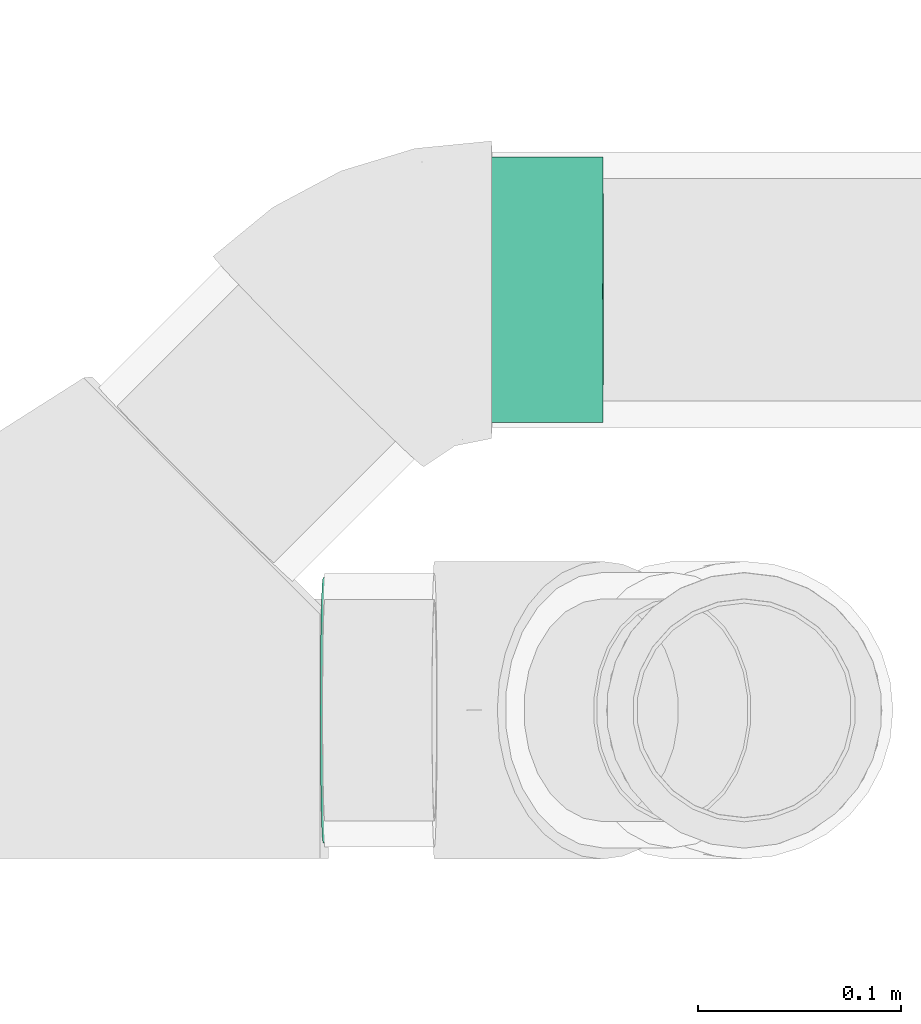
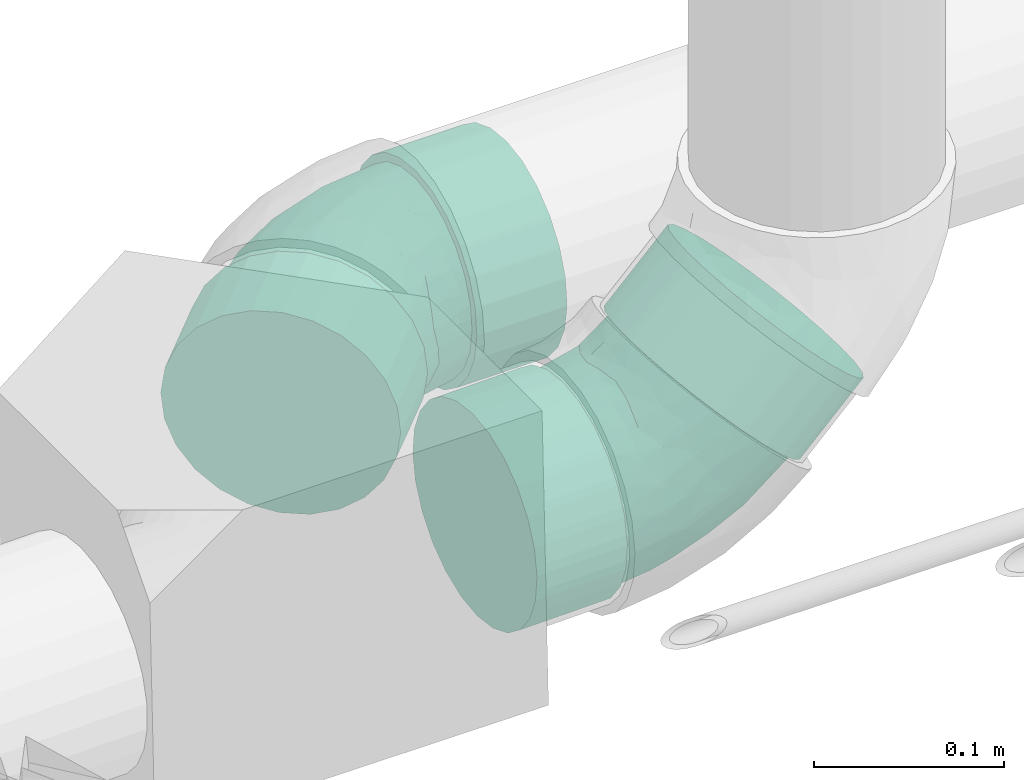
# One storey, part 129 of 156: 2 flow fittings.
"""IFC2X3 building model written with IfcOpenShell, lengths in millimetres."""

from ifc_helpers import new_model, entity, si_unit, converted_unit, derived_unit, direction, frame, origin_with_axes, place, context, subcontext, project, spatial, open_shell, surface_model, source, transform, mapped, type_object, element, save


model = new_model("IFC2X3")

# Units and contexts
model_context = context("Model", 3, precision=0.01, world=frame((0.0, 4.29681676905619e-09, 0.0)), true_north=direction((4.01073788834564e-13, 1.0)))
plan_context = context("Plan", 3, precision=0.01, world=frame((0.0, 4.29681676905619e-09, 0.0)), true_north=direction((4.01073788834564e-13, 1.0)))
body_context = subcontext(model_context, "Body", "Model", "MODEL_VIEW")
ifc_project = project(units=[converted_unit("PLANEANGLEUNIT", "DEGREE", entity("IfcPositiveLengthMeasure", 0.0174532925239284), si_unit("PLANEANGLEUNIT", "RADIAN"), dimensions=[0, 0, 0, 0, 0, 0, 0]), si_unit("AREAUNIT", "SQUARE_METRE"), si_unit("LENGTHUNIT", "METRE", prefix="MILLI"), si_unit("MASSUNIT", "GRAM", prefix="KILO"), si_unit("POWERUNIT", "WATT"), si_unit("PRESSUREUNIT", "PASCAL", prefix="KILO"), si_unit("FORCEUNIT", "NEWTON", prefix="KILO"), si_unit("ELECTRICVOLTAGEUNIT", "VOLT"), si_unit("ELECTRICCURRENTUNIT", "AMPERE"), si_unit("THERMODYNAMICTEMPERATUREUNIT", "DEGREE_CELSIUS"), si_unit("TIMEUNIT", "SECOND"), si_unit("VOLUMEUNIT", "CUBIC_METRE"), derived_unit("LINEARVELOCITYUNIT", [(si_unit("LENGTHUNIT", "METRE"), 1), (si_unit("TIMEUNIT", "SECOND"), -1)]), derived_unit("VOLUMETRICFLOWRATEUNIT", [(si_unit("VOLUMEUNIT", "CUBIC_METRE"), 1), (si_unit("TIMEUNIT", "SECOND"), -1)]), derived_unit("THERMALTRANSMITTANCEUNIT", [(si_unit("POWERUNIT", "WATT"), 1), (si_unit("THERMODYNAMICTEMPERATUREUNIT", "KELVIN"), -1), (si_unit("AREAUNIT", "SQUARE_METRE"), -1)]), derived_unit("SOUNDPRESSUREUNIT", [(si_unit("PRESSUREUNIT", "PASCAL"), 1)])], contexts=[model_context, plan_context])

# Site, building, storey
site_placement = place(None, frame((0.0, -4.29681676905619e-09, 0.0), z_axis=(0.0, 0.0, 1.0), x_axis=(1.0, 0.0, 0.0)))
site = spatial("IfcSite", under=ifc_project, at=site_placement, CompositionType="ELEMENT")
building_placement = place(site_placement, frame((0.0, 4.29681676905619e-09, 0.0), z_axis=(0.0, 0.0, 1.0), x_axis=(1.0, 0.0, 0.0)))
building = spatial("IfcBuilding", under=site, at=building_placement, Name="mc-building", CompositionType="ELEMENT")
storey_placement = place(building_placement, frame((0.0, 0.0, 205200.0), z_axis=(0.0, 0.0, 1.0), x_axis=(1.0, 0.0, 0.0)))
storey = spatial("IfcBuildingStorey", under=building, at=storey_placement, Name="Nivå D + 1,2 m", CompositionType="ELEMENT", Elevation=205200.0)

# Flow fittings
pipe_fitting_type = type_object("IfcPipeFittingType", Name="magi_sewer_bend_001", PredefinedType="BEND")
shared_shape_1 = source(origin_with_axes(), body_context, "Body", "SurfaceModel", [
    surface_model("IfcShellBasedSurfaceModel", [(-105.13049, -16.95265, -63.26814), (-105.13049, -32.75, -56.72466), (-105.13049, -46.3155, -46.3155), (-105.13049, -63.26814, -16.95265), (-105.13049, 56.72466, -32.75), (-105.13049, -56.72466, -32.75), (-105.13049, -65.5, 0.0), (-105.13049, 16.95265, -63.26814), (-105.13049, 0.0, -65.5), (-105.13049, 32.75, -56.72466), (-105.13049, 46.3155, -46.3155), (-105.13049, 63.26814, -16.95265), (-105.13049, -63.26814, 16.95265), (-105.13049, -56.72466, 32.75), (-105.13049, -46.3155, 46.3155), (-105.13049, 63.26814, 16.95265), (-105.13049, -16.95265, 63.26814), (-105.13049, 0.0, 65.5), (-105.13049, -32.75, 56.72466), (-105.13049, 46.3155, 46.3155), (-105.13049, 56.72466, 32.75), (-105.13049, 65.5, 0.0), (-105.13049, 16.95265, 63.26814), (-105.13049, 32.75, 56.72466), (-50.13049, -16.95265, 63.26814), (-50.13049, 16.95265, 63.26814), (-50.13049, 0.0, 65.5), (-50.13049, -46.3155, 46.3155), (-50.13049, -32.75, 56.72466), (-50.13049, -56.72466, 32.75), (-50.13049, -63.26814, 16.95265), (-50.13049, 46.3155, 46.3155), (-50.13049, 32.75, 56.72466), (-50.13049, 63.26814, 16.95265), (-50.13049, 56.72466, 32.75), (-50.13049, 63.26814, -16.95265), (-50.13049, 65.5, 0.0), (-50.13049, -63.26814, -16.95265), (-50.13049, 32.75, -56.72466), (-50.13049, -65.5, 0.0), (-50.13049, -16.95265, -63.26814), (-50.13049, -56.72466, -32.75), (-50.13049, -46.3155, -46.3155), (-50.13049, -32.75, -56.72466), (-50.13049, 0.0, -65.5), (-50.13049, 46.3155, -46.3155), (-50.13049, 56.72466, -32.75), (-50.13049, 16.95265, -63.26814), (29.58326, 119.08026, 16.95265), (34.21089, 114.45401, 32.75), (41.57239, 107.09473, 46.3155), (62.33818, 86.33518, 63.26814), (86.31644, 62.36412, 63.26814), (51.16609, 97.50391, 56.72466), (74.32731, 74.34965, -65.5), (29.58326, 119.08026, -16.95265), (41.57239, 107.09473, -46.3155), (34.21089, 114.45401, -32.75), (28.00486, 120.65819, 0.0), (62.33818, 86.33518, -63.26814), (51.16609, 97.50391, -56.72466), (74.32731, 74.34965, 65.5), (97.48854, 51.19538, 56.72466), (107.08224, 41.60457, 46.3155), (119.07137, 29.61904, 16.95265), (120.64977, 28.04111, 0.0), (114.44373, 34.24528, 32.75), (86.31644, 62.36412, -63.26814), (107.08224, 41.60457, -46.3155), (97.48854, 51.19538, -56.72466), (114.44373, 34.24528, -32.75), (119.07137, 29.61904, -16.95265), (81.76473, -10.8556, 0.0), (80.18634, -9.27768, 16.95265), (75.5587, -4.65144, 32.75), (68.1972, 2.70785, 46.3155), (58.60351, 12.29867, 56.72466), (47.43142, 23.4674, 63.26814), (35.44228, 35.45293, -65.5), (75.5587, -4.65144, -32.75), (58.60351, 12.29867, -56.72466), (68.1972, 2.70785, -46.3155), (80.18634, -9.27768, -16.95265), (47.43142, 23.4674, -63.26814), (-9.30177, 80.18354, 16.95265), (23.45315, 47.43847, 63.26814), (12.28106, 58.6072, 56.72466), (2.68736, 68.19801, 46.3155), (-4.67414, 75.5573, 32.75), (-4.67414, 75.5573, -32.75), (23.45315, 47.43847, -63.26814), (2.68736, 68.19801, -46.3155), (12.28106, 58.6072, -56.72466), (-9.30177, 80.18354, -16.95265), (-10.88017, 81.76147, 0.0), (35.44228, 35.45293, 65.5), (-50.13049, 15.65855, -58.43851), (-50.13049, 0.0, -60.5), (-50.13049, 58.43851, -15.65855), (-50.13049, 30.25, -52.39454), (-50.13049, 52.39454, -30.25), (-50.13049, 42.77996, -42.77996), (-50.13049, -60.5, 0.0), (-50.13049, -30.25, -52.39454), (-50.13049, -42.77996, -42.77996), (-50.13049, -15.65855, -58.43851), (-50.13049, -58.43851, -15.65855), (-50.13049, -52.39454, -30.25), (-50.13049, -58.43851, 15.65855), (-50.13049, 58.43851, 15.65855), (-50.13049, 52.39454, 30.25), (-50.13049, 42.77996, 42.77996), (-50.13049, 30.25, 52.39454), (-50.13049, 15.65855, 58.43851), (-50.13049, -52.39454, 30.25), (-50.13049, -42.77996, 42.77996), (-50.13049, -30.25, 52.39454), (-50.13049, -15.65855, 58.43851), (-50.13049, 0.0, 60.5), (-50.13049, 60.5, 0.0), (35.44228, 35.45293, -60.5), (24.36835, 46.52354, -58.43851), (14.04909, 56.8397, -52.39454), (-5.88619, 76.769, -15.65855), (5.18774, 65.69839, -42.77996), (-1.61181, 72.4959, -30.25), (46.51622, 24.38233, -58.43851), (65.69683, 5.20748, -42.77996), (56.83548, 14.06617, -52.39454), (72.49638, -1.59003, -30.25), (78.22867, -7.3206, 0.0), (76.77076, -5.86313, -15.65855), (14.04909, 56.8397, 52.39454), (-7.3441, 78.22647, 0.0), (-5.88619, 76.769, 15.65855), (-1.61181, 72.4959, 30.25), (5.18774, 65.69839, 42.77996), (35.44228, 35.45293, 60.5), (24.36835, 46.52354, 58.43851), (76.77076, -5.86313, 15.65855), (65.69683, 5.20748, 42.77996), (72.49638, -1.59003, 30.25), (56.83548, 14.06617, 52.39454), (46.51622, 24.38233, 58.43851), (15.41053, -37.1964, 33.7136), (-13.39109, -34.19271, 46.68376), (-19.54597, -46.27111, 35.42477), (-20.22499, -56.5621, 0.0), (-3.14605, -54.31319, 0.0), (-12.91977, -55.7368, 10.33019), (46.54254, -18.89053, 35.42477), (-23.97695, -22.18433, 55.29363), (6.212, -14.99391, 54.53105), (1.79206, 36.37472, 56.46842), (10.93913, 28.64366, 59.62044), (-18.06415, -5.82488, 59.69839), (-5.75656, 13.89461, 60.28749), (-30.31899, 8.38388, 60.13291), (-17.18954, 41.4904, 49.39305), (-26.69049, 50.7381, 38.17985), (32.64076, 1.27247, 55.29363), (-23.25493, 25.17575, 56.55913), (23.35453, -39.58947, 23.84174), (-10.8534, -52.34077, 21.00941), (18.78576, -45.34319, 13.14739), (-24.92925, 60.17175, 24.85666), (48.55207, -30.26891, 10.33019), (54.30053, -25.68607, 0.0), (-24.23608, 64.83083, 12.71211), (44.68943, -29.32929, 21.00941), (16.89079, 8.65701, 59.69839), (33.64903, -14.70391, 46.68376), (-26.97394, 65.10703, 0.0), (10.15633, -24.51435, 48.24293), (18.7446, -45.24385, 0.0), (40.63525, -36.17452, 0.0), (-18.06415, -5.82488, -59.69839), (-12.91978, -55.7368, -10.33019), (18.78576, -45.34319, -13.14739), (16.8908, 8.65701, -59.69839), (-26.99166, 24.44958, -56.46842), (-27.99114, 12.51479, -59.62044), (-17.01245, 54.74773, -38.17984), (33.64903, -14.70391, -46.68376), (-24.92925, 60.17175, -24.85666), (44.68943, -29.32929, -21.00941), (-28.71428, 62.9755, -12.71211), (-1.36337, 34.24546, -56.55913), (-10.8534, -52.34077, -21.00941), (-17.18954, 41.4904, -49.39305), (-19.54597, -46.27111, -35.42477), (-13.39109, -34.19271, -46.68376), (10.15633, -24.51435, -48.24292), (15.41053, -37.1964, -33.7136), (-23.97695, -22.18433, -55.29363), (32.64076, 1.27247, -55.29363), (6.212, -14.99391, -54.53105), (48.55207, -30.26891, -10.33019), (15.50636, 27.36939, -60.13291), (11.48652, -44.5064, -23.84174), (46.54254, -18.89053, -35.42477), (-5.75656, 13.89461, -60.28749)], [open_shell([[[0, 1, 2]], [[0, 2, 3]], [[0, 3, 4]], [[3, 2, 5]], [[4, 3, 6]], [[0, 7, 8]], [[0, 9, 7]], [[10, 9, 0]], [[0, 4, 10]], [[6, 11, 4]], [[6, 12, 11]], [[12, 13, 14]], [[11, 14, 15]], [[16, 17, 14]], [[16, 14, 18]], [[15, 14, 17]], [[15, 19, 20]], [[21, 11, 15]], [[19, 22, 23]], [[22, 19, 15]], [[17, 22, 15]], [[11, 12, 14]], [[24, 25, 26]], [[27, 24, 28]], [[27, 29, 30]], [[24, 27, 25]], [[30, 25, 27]], [[25, 31, 32]], [[31, 25, 33]], [[31, 33, 34]], [[25, 30, 33]], [[33, 35, 36]], [[33, 30, 35]], [[37, 38, 39]], [[40, 37, 41]], [[42, 43, 40]], [[42, 40, 41]], [[44, 37, 40]], [[39, 45, 46]], [[46, 35, 39]], [[38, 44, 47]], [[38, 45, 39]], [[38, 37, 44]], [[39, 35, 30]], [[35, 11, 36]], [[46, 4, 35]], [[47, 44, 7]], [[45, 10, 46]], [[35, 4, 11]], [[11, 21, 36]], [[9, 38, 7]], [[9, 10, 45]], [[38, 47, 7]], [[10, 4, 46]], [[45, 38, 9]], [[44, 8, 7]], [[0, 40, 43]], [[42, 1, 43]], [[5, 41, 37]], [[42, 41, 2]], [[3, 37, 39]], [[40, 0, 8]], [[43, 1, 0]], [[42, 2, 1]], [[41, 5, 2]], [[3, 5, 37]], [[39, 6, 3]], [[40, 8, 44]], [[30, 12, 39]], [[29, 13, 30]], [[28, 18, 27]], [[27, 14, 29]], [[30, 13, 12]], [[12, 6, 39]], [[17, 16, 24]], [[16, 18, 28]], [[14, 27, 18]], [[14, 13, 29]], [[24, 16, 28]], [[24, 26, 17]], [[22, 25, 32]], [[31, 23, 32]], [[20, 34, 33]], [[31, 34, 19]], [[15, 33, 36]], [[25, 22, 17]], [[32, 23, 22]], [[31, 19, 23]], [[34, 20, 19]], [[15, 20, 33]], [[36, 21, 15]], [[25, 17, 26]], [[48, 49, 50]], [[48, 50, 51]], [[48, 51, 52]], [[51, 50, 53]], [[54, 55, 48]], [[55, 56, 57]], [[55, 58, 48]], [[56, 59, 60]], [[54, 59, 56]], [[56, 55, 54]], [[52, 51, 61]], [[52, 62, 63]], [[48, 63, 54]], [[64, 65, 63]], [[64, 63, 66]], [[54, 63, 65]], [[67, 68, 69]], [[67, 54, 65]], [[65, 68, 67]], [[65, 70, 68]], [[71, 70, 65]], [[63, 48, 52]], [[72, 73, 74]], [[72, 74, 75]], [[75, 76, 77]], [[75, 77, 72]], [[72, 77, 78]], [[79, 80, 81]], [[79, 82, 72]], [[79, 83, 80]], [[79, 72, 83]], [[78, 83, 72]], [[77, 84, 78]], [[85, 84, 77]], [[84, 85, 86]], [[87, 88, 84]], [[87, 84, 86]], [[78, 84, 89]], [[90, 91, 92]], [[91, 90, 89]], [[84, 93, 89]], [[90, 78, 89]], [[94, 93, 84]], [[85, 77, 95]], [[90, 59, 78]], [[92, 60, 90]], [[93, 94, 55]], [[91, 56, 92]], [[90, 60, 59]], [[59, 54, 78]], [[57, 89, 55]], [[57, 56, 91]], [[89, 93, 55]], [[56, 60, 92]], [[91, 89, 57]], [[94, 58, 55]], [[48, 84, 88]], [[87, 49, 88]], [[53, 86, 85]], [[87, 86, 50]], [[51, 85, 95]], [[84, 48, 58]], [[88, 49, 48]], [[87, 50, 49]], [[86, 53, 50]], [[51, 53, 85]], [[95, 61, 51]], [[84, 58, 94]], [[77, 52, 95]], [[76, 62, 77]], [[74, 66, 75]], [[75, 63, 76]], [[77, 62, 52]], [[52, 61, 95]], [[65, 64, 73]], [[64, 66, 74]], [[63, 75, 66]], [[63, 62, 76]], [[73, 64, 74]], [[73, 72, 65]], [[71, 82, 79]], [[81, 70, 79]], [[69, 80, 83]], [[81, 80, 68]], [[67, 83, 78]], [[82, 71, 65]], [[79, 70, 71]], [[81, 68, 70]], [[80, 69, 68]], [[67, 69, 83]], [[78, 54, 67]], [[82, 65, 72]], [[96, 97, 98]], [[99, 96, 98]], [[98, 100, 101]], [[99, 98, 101]], [[102, 98, 97]], [[103, 104, 105]], [[104, 97, 105]], [[106, 102, 107]], [[104, 107, 102]], [[104, 102, 97]], [[102, 108, 98]], [[109, 98, 108]], [[110, 109, 111]], [[112, 109, 108]], [[111, 109, 112]], [[113, 112, 108]], [[114, 115, 108]], [[116, 108, 115]], [[117, 118, 116]], [[108, 116, 118]], [[118, 113, 108]], [[119, 98, 109]], [[120, 121, 122]], [[120, 122, 123]], [[124, 125, 123]], [[124, 123, 122]], [[120, 123, 126]], [[126, 127, 128]], [[127, 126, 129]], [[129, 130, 131]], [[130, 129, 126]], [[126, 123, 130]], [[123, 132, 130]], [[133, 134, 135]], [[133, 135, 136]], [[137, 130, 132]], [[132, 133, 136]], [[137, 132, 138]], [[139, 140, 141]], [[140, 139, 142]], [[139, 143, 142]], [[139, 130, 143]], [[137, 143, 130]], [[132, 123, 133]], [[144, 145, 146]], [[147, 148, 149]], [[116, 115, 145]], [[141, 140, 150]], [[151, 145, 152]], [[146, 145, 115]], [[138, 153, 154]], [[117, 116, 151]], [[155, 156, 157]], [[118, 117, 155]], [[111, 158, 159]], [[142, 143, 160]], [[157, 113, 118]], [[112, 161, 158]], [[108, 147, 149]], [[132, 136, 158]], [[162, 163, 164]], [[158, 111, 112]], [[115, 114, 146]], [[110, 159, 165]], [[109, 110, 165]], [[139, 166, 167]], [[168, 119, 109]], [[169, 162, 164]], [[163, 149, 164]], [[112, 113, 161]], [[137, 154, 170]], [[140, 142, 171]], [[135, 134, 165]], [[170, 143, 137]], [[144, 146, 163]], [[140, 171, 150]], [[156, 154, 153]], [[171, 142, 160]], [[114, 163, 146]], [[166, 139, 169]], [[144, 150, 171]], [[157, 161, 113]], [[144, 162, 150]], [[109, 165, 168]], [[114, 108, 163]], [[172, 168, 133]], [[145, 173, 152]], [[134, 168, 165]], [[152, 170, 155]], [[135, 165, 159]], [[152, 160, 170]], [[135, 159, 136]], [[156, 155, 170]], [[138, 132, 153]], [[153, 158, 161]], [[151, 155, 117]], [[110, 111, 159]], [[169, 139, 141]], [[169, 141, 150]], [[173, 144, 171]], [[136, 159, 158]], [[158, 153, 132]], [[156, 153, 161]], [[145, 151, 116]], [[155, 151, 152]], [[170, 160, 143]], [[171, 160, 152]], [[108, 102, 147]], [[164, 148, 174]], [[108, 149, 163]], [[148, 164, 149]], [[166, 164, 175]], [[167, 166, 175]], [[167, 130, 139]], [[164, 166, 169]], [[170, 154, 156]], [[137, 138, 154]], [[155, 157, 118]], [[161, 157, 156]], [[144, 173, 145]], [[171, 152, 173]], [[133, 168, 134]], [[168, 172, 119]], [[150, 162, 169]], [[163, 162, 144]], [[175, 164, 174]], [[105, 97, 176]], [[148, 177, 178]], [[120, 126, 179]], [[180, 181, 96]], [[100, 182, 101]], [[128, 127, 183]], [[184, 182, 100]], [[129, 131, 185]], [[98, 186, 184]], [[122, 121, 187]], [[106, 177, 147]], [[99, 180, 96]], [[177, 106, 188]], [[124, 189, 182]], [[188, 107, 190]], [[190, 104, 191]], [[104, 103, 191]], [[192, 193, 191]], [[106, 107, 188]], [[104, 190, 107]], [[194, 103, 105]], [[195, 179, 126]], [[123, 125, 184]], [[196, 194, 176]], [[119, 172, 186]], [[193, 190, 191]], [[133, 123, 186]], [[196, 176, 179]], [[124, 122, 189]], [[184, 100, 98]], [[125, 182, 184]], [[194, 191, 103]], [[187, 189, 122]], [[181, 176, 97]], [[189, 187, 180]], [[101, 189, 99]], [[131, 167, 197]], [[198, 121, 120]], [[195, 126, 128]], [[199, 185, 178]], [[127, 200, 183]], [[196, 195, 183]], [[127, 129, 200]], [[201, 198, 179]], [[200, 193, 183]], [[201, 179, 176]], [[197, 167, 175]], [[198, 187, 121]], [[201, 181, 180]], [[177, 188, 178]], [[193, 199, 190]], [[183, 192, 196]], [[129, 185, 200]], [[123, 184, 186]], [[193, 200, 185]], [[125, 124, 182]], [[101, 182, 189]], [[189, 180, 99]], [[201, 180, 187]], [[176, 194, 105]], [[191, 194, 196]], [[183, 195, 128]], [[179, 195, 196]], [[147, 177, 148]], [[147, 102, 106]], [[199, 178, 188]], [[197, 178, 185]], [[178, 175, 174]], [[131, 130, 167]], [[178, 197, 175]], [[131, 197, 185]], [[176, 181, 201]], [[97, 96, 181]], [[179, 198, 120]], [[187, 198, 201]], [[193, 192, 183]], [[191, 196, 192]], [[119, 186, 98]], [[186, 172, 133]], [[190, 199, 188]], [[185, 199, 193]], [[148, 178, 174]]])]),
])
flow_fitting_1_placement = place(storey_placement, frame((328364.70631, 462815.30448, 4227.77338999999), z_axis=(-0.00224100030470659, -0.0269550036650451, 0.999634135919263), x_axis=(-0.999997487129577, -5.0177040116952e-09, -0.0022418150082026)))
element("IfcFlowFitting", 1, at=flow_fitting_1_placement, inside=storey, type_object=pipe_fitting_type, Name="magi_sewer_bend_001", context=body_context, shape_type="MappedRepresentation", body=[
    mapped(shared_shape_1, transform((0.0, 0.0, 0.0), scale=1.0)),
])
shared_shape_2 = source(origin_with_axes(), body_context, "Body", "SurfaceModel", [
    surface_model("IfcShellBasedSurfaceModel", [(-103.64145, -16.95265, -63.26814), (-103.64145, -32.75, -56.72466), (-103.64145, -46.3155, -46.3155), (-103.64145, -63.26814, -16.95265), (-103.64145, 56.72466, -32.75), (-103.64145, -56.72466, -32.75), (-103.64145, -65.5, 0.0), (-103.64145, 16.95265, -63.26814), (-103.64145, 0.0, -65.5), (-103.64145, 32.75, -56.72466), (-103.64145, 46.3155, -46.3155), (-103.64145, 63.26814, -16.95265), (-103.64145, -63.26814, 16.95265), (-103.64145, -56.72466, 32.75), (-103.64145, -46.3155, 46.3155), (-103.64145, 63.26814, 16.95265), (-103.64145, -16.95265, 63.26814), (-103.64145, 0.0, 65.5), (-103.64145, -32.75, 56.72466), (-103.64145, 46.3155, 46.3155), (-103.64145, 56.72466, 32.75), (-103.64145, 65.5, 0.0), (-103.64145, 16.95265, 63.26814), (-103.64145, 32.75, 56.72466), (-48.64145, -16.95265, 63.26814), (-48.64145, 16.95265, 63.26814), (-48.64145, 0.0, 65.5), (-48.64145, -46.3155, 46.3155), (-48.64145, -32.75, 56.72466), (-48.64145, -56.72466, 32.75), (-48.64145, -63.26814, 16.95265), (-48.64145, 46.3155, 46.3155), (-48.64145, 32.75, 56.72466), (-48.64145, 63.26814, 16.95265), (-48.64145, 56.72466, 32.75), (-48.64145, 63.26814, -16.95265), (-48.64145, 65.5, 0.0), (-48.64145, -63.26814, -16.95265), (-48.64145, 32.75, -56.72466), (-48.64145, -65.5, 0.0), (-48.64145, -16.95265, -63.26814), (-48.64145, -56.72466, -32.75), (-48.64145, -46.3155, -46.3155), (-48.64145, -32.75, -56.72466), (-48.64145, 0.0, -65.5), (-48.64145, 46.3155, -46.3155), (-48.64145, 56.72466, -32.75), (-48.64145, 16.95265, -63.26814), (31.01407, 117.39904, 16.95265), (35.54307, 112.67621, 32.75), (42.74768, 105.16326, 46.3155), (63.0709, 83.97025, 63.26814), (86.53814, 59.49868, 63.26814), (52.13691, 95.37219, 56.72466), (86.53814, 59.49868, -63.26814), (31.01407, 117.39904, -16.95265), (42.74768, 105.16326, -46.3155), (35.54307, 112.67621, -32.75), (29.4693, 119.00991, 0.0), (52.13691, 95.37219, -56.72466), (74.80452, 71.73446, -65.5), (63.0709, 83.97025, -63.26814), (74.80452, 71.73446, 65.5), (97.47213, 48.09674, 56.72466), (106.86136, 38.30567, 46.3155), (118.59498, 26.06988, 16.95265), (120.13973, 24.45901, 0.0), (114.06597, 30.79272, 32.75), (114.06597, 30.79272, -32.75), (97.47213, 48.09674, -56.72466), (106.86136, 38.30567, -46.3155), (118.59498, 26.06988, -16.95265), (78.89804, -11.99785, 16.95265), (78.89804, -11.99785, -16.95265), (80.44279, -13.60873, 0.0), (67.16441, 0.23793, 46.3155), (74.36903, -7.27502, 32.75), (57.77518, 10.029, 56.72466), (46.8412, 21.43094, 63.26814), (74.36903, -7.27502, -32.75), (46.8412, 21.43094, -63.26814), (67.16441, 0.23793, -46.3155), (57.77518, 10.029, -56.72466), (35.10758, 33.66672, -65.5), (35.10758, 33.66672, 65.5), (23.37396, 45.90251, 63.26814), (3.05074, 67.09552, -46.3155), (-8.68288, 79.3313, 16.95265), (12.43997, 57.30445, 56.72466), (3.05074, 67.09552, 46.3155), (-4.15387, 74.60847, 32.75), (12.43997, 57.30445, -56.72466), (23.37396, 45.90251, -63.26814), (-4.15387, 74.60847, -32.75), (-10.22764, 80.94218, 0.0), (-8.68288, 79.3313, -16.95265), (-48.64145, 15.65855, -58.43851), (-48.64145, 0.0, -60.5), (-48.64145, 58.43851, -15.65855), (-48.64145, 30.25, -52.39454), (-48.64145, 52.39454, -30.25), (-48.64145, 42.77996, -42.77996), (-48.64145, -60.5, 0.0), (-48.64145, -30.25, -52.39454), (-48.64145, -42.77996, -42.77996), (-48.64145, -15.65855, -58.43851), (-48.64145, -58.43851, -15.65855), (-48.64145, -52.39454, -30.25), (-48.64145, -58.43851, 15.65855), (-48.64145, 58.43851, 15.65855), (-48.64145, 52.39454, 30.25), (-48.64145, 42.77996, 42.77996), (-48.64145, 30.25, 52.39454), (-48.64145, 15.65855, 58.43851), (-48.64145, -52.39454, 30.25), (-48.64145, -42.77996, 42.77996), (-48.64145, -30.25, 52.39454), (-48.64145, -15.65855, 58.43851), (-48.64145, 0.0, 60.5), (-48.64145, 60.5, 0.0), (-5.3401, 75.84546, -15.65855), (35.10758, 33.66672, -60.5), (24.26966, 44.96848, -58.43851), (14.17032, 55.50004, -52.39454), (5.49783, 64.5437, -42.77996), (-1.15681, 71.48314, -30.25), (75.55525, -8.51201, 15.65855), (45.9455, 22.36497, -58.43851), (64.71733, 2.78975, -42.77996), (56.04483, 11.83341, -52.39454), (71.37197, -4.14969, -30.25), (76.98209, -9.99991, 0.0), (75.55525, -8.51201, -15.65855), (-5.3401, 75.84546, 15.65855), (5.49783, 64.5437, 42.77996), (-1.15681, 71.48314, 30.25), (14.17032, 55.50004, 52.39454), (24.26966, 44.96848, 58.43851), (64.71733, 2.78975, 42.77996), (71.37197, -4.14969, 30.25), (56.04483, 11.83341, 52.39454), (45.9455, 22.36497, 58.43851), (35.10758, 33.66672, 60.5), (-6.76693, 77.33336, 0.0), (-10.07589, -52.46421, 21.10473), (11.11577, -44.92972, 24.39848), (-18.35967, -46.28878, 35.47566), (-18.71775, -56.6667, 0.0), (-2.89106, -54.63927, 0.0), (-12.0213, -55.84148, 10.43491), (-12.49267, -34.26114, 46.74003), (45.28967, -20.70204, 35.47566), (-23.34282, -22.25564, 55.32951), (6.20377, -15.43245, 54.60753), (10.62589, 27.86085, 59.56365), (-16.99509, -5.8536, 59.71059), (-5.45587, 13.57197, 60.27467), (-29.52412, 8.34001, 60.12457), (-16.57897, 41.24169, 49.32097), (-25.26201, 50.75063, 38.14167), (32.25201, 0.09323, 55.32951), (-22.00157, 25.17042, 56.53698), (39.90472, -37.43556, 0.0), (14.68222, -47.39729, 13.77993), (18.50683, -46.03742, 0.0), (-24.09831, 59.94674, 24.76692), (47.32668, -31.98386, 10.43491), (52.7311, -27.94459, 0.0), (-23.8097, 64.36429, 12.66401), (16.31793, 7.53808, 59.71059), (32.73027, -16.08173, 46.74003), (15.1848, -37.77356, 33.88226), (43.58501, -30.89277, 21.10473), (2.31338, 35.90515, 56.42983), (-26.07578, 64.86587, 0.0), (9.93908, -24.72437, 48.58042), (-16.99509, -5.8536, -59.71059), (-12.0213, -55.84148, -10.43491), (18.48973, -45.99489, -13.46304), (16.31794, 7.53809, -59.71059), (-26.953, 12.75431, -59.56365), (-16.8934, 54.11477, -38.14166), (32.73027, -16.08173, -46.74003), (-24.09832, 59.94674, -24.76692), (43.58501, -30.89277, -21.10473), (-27.3642, 62.93539, -12.66401), (-1.54156, 33.39525, -56.53698), (-26.52113, 24.31381, -56.42983), (-10.07589, -52.46421, -21.10473), (-16.57898, 41.24169, -49.32097), (45.28967, -20.70204, -35.47566), (15.1848, -37.77356, -33.88226), (-18.35967, -46.28878, -35.47566), (-12.49267, -34.26114, -46.74003), (9.93908, -24.72437, -48.58042), (-23.34282, -22.25564, -55.32951), (32.25201, 0.09323, -55.32951), (6.20378, -15.43245, -54.60753), (47.32668, -31.98386, -10.43491), (15.53694, 26.45436, -60.12457), (11.89323, -44.79424, -24.08366), (-5.45587, 13.57197, -60.27467)], [open_shell([[[0, 1, 2]], [[0, 2, 3]], [[0, 3, 4]], [[3, 2, 5]], [[4, 3, 6]], [[0, 7, 8]], [[0, 9, 7]], [[10, 9, 0]], [[0, 4, 10]], [[6, 11, 4]], [[6, 12, 11]], [[12, 13, 14]], [[11, 14, 15]], [[16, 17, 14]], [[16, 14, 18]], [[15, 14, 17]], [[15, 19, 20]], [[21, 11, 15]], [[19, 22, 23]], [[22, 19, 15]], [[17, 22, 15]], [[11, 12, 14]], [[24, 25, 26]], [[27, 24, 28]], [[27, 29, 30]], [[24, 27, 25]], [[30, 25, 27]], [[25, 31, 32]], [[31, 25, 33]], [[31, 33, 34]], [[25, 30, 33]], [[33, 35, 36]], [[33, 30, 35]], [[37, 38, 39]], [[40, 37, 41]], [[42, 43, 40]], [[42, 40, 41]], [[44, 37, 40]], [[39, 45, 46]], [[46, 35, 39]], [[38, 44, 47]], [[38, 45, 39]], [[38, 37, 44]], [[39, 35, 30]], [[35, 11, 36]], [[46, 4, 35]], [[47, 44, 7]], [[45, 10, 46]], [[35, 4, 11]], [[11, 21, 36]], [[9, 38, 7]], [[9, 10, 45]], [[38, 47, 7]], [[10, 4, 46]], [[45, 38, 9]], [[44, 8, 7]], [[0, 40, 43]], [[42, 1, 43]], [[5, 41, 37]], [[42, 41, 2]], [[3, 37, 39]], [[40, 0, 8]], [[43, 1, 0]], [[42, 2, 1]], [[41, 5, 2]], [[3, 5, 37]], [[39, 6, 3]], [[40, 8, 44]], [[30, 12, 39]], [[29, 13, 30]], [[28, 18, 27]], [[27, 14, 29]], [[30, 13, 12]], [[12, 6, 39]], [[17, 16, 24]], [[16, 18, 28]], [[14, 27, 18]], [[14, 13, 29]], [[24, 16, 28]], [[24, 26, 17]], [[22, 25, 32]], [[31, 23, 32]], [[20, 34, 33]], [[31, 34, 19]], [[15, 33, 36]], [[25, 22, 17]], [[32, 23, 22]], [[31, 19, 23]], [[34, 20, 19]], [[15, 20, 33]], [[36, 21, 15]], [[25, 17, 26]], [[48, 49, 50]], [[48, 50, 51]], [[48, 51, 52]], [[51, 50, 53]], [[48, 54, 55]], [[55, 56, 57]], [[55, 58, 48]], [[55, 59, 56]], [[55, 54, 59]], [[59, 60, 61]], [[52, 51, 62]], [[52, 63, 64]], [[48, 64, 54]], [[65, 66, 64]], [[65, 64, 67]], [[54, 64, 66]], [[54, 68, 69]], [[60, 59, 54]], [[69, 68, 70]], [[54, 66, 68]], [[71, 68, 66]], [[48, 52, 64]], [[72, 73, 74]], [[75, 72, 76]], [[75, 77, 78]], [[72, 75, 73]], [[78, 73, 75]], [[79, 80, 81]], [[80, 79, 73]], [[81, 80, 82]], [[73, 78, 80]], [[78, 83, 80]], [[78, 84, 83]], [[85, 86, 84]], [[87, 85, 88]], [[89, 90, 87]], [[89, 87, 88]], [[86, 85, 87]], [[91, 92, 83]], [[86, 91, 83]], [[93, 94, 95]], [[94, 93, 86]], [[87, 94, 86]], [[83, 84, 86]], [[92, 61, 83]], [[91, 59, 92]], [[95, 94, 55]], [[86, 56, 91]], [[92, 59, 61]], [[61, 60, 83]], [[57, 93, 55]], [[57, 56, 86]], [[93, 95, 55]], [[56, 59, 91]], [[86, 93, 57]], [[94, 58, 55]], [[48, 87, 90]], [[89, 49, 90]], [[53, 88, 85]], [[89, 88, 50]], [[51, 85, 84]], [[87, 48, 58]], [[90, 49, 48]], [[89, 50, 49]], [[88, 53, 50]], [[51, 53, 85]], [[84, 62, 51]], [[87, 58, 94]], [[78, 52, 84]], [[77, 63, 78]], [[76, 67, 75]], [[75, 64, 77]], [[78, 63, 52]], [[52, 62, 84]], [[66, 65, 72]], [[65, 67, 76]], [[64, 75, 67]], [[64, 63, 77]], [[72, 65, 76]], [[72, 74, 66]], [[71, 73, 79]], [[81, 68, 79]], [[69, 82, 80]], [[81, 82, 70]], [[54, 80, 83]], [[73, 71, 66]], [[79, 68, 71]], [[81, 70, 68]], [[82, 69, 70]], [[54, 69, 80]], [[83, 60, 54]], [[73, 66, 74]], [[96, 97, 98]], [[99, 96, 98]], [[98, 100, 101]], [[99, 98, 101]], [[102, 98, 97]], [[103, 104, 105]], [[104, 97, 105]], [[106, 102, 107]], [[104, 107, 102]], [[104, 102, 97]], [[102, 108, 98]], [[109, 98, 108]], [[110, 109, 111]], [[112, 109, 108]], [[111, 109, 112]], [[113, 112, 108]], [[114, 115, 108]], [[116, 108, 115]], [[117, 118, 116]], [[108, 116, 118]], [[118, 113, 108]], [[119, 98, 109]], [[120, 121, 122]], [[120, 122, 123]], [[124, 125, 120]], [[124, 120, 123]], [[126, 127, 121]], [[127, 128, 129]], [[128, 127, 126]], [[130, 131, 132]], [[126, 131, 130]], [[130, 128, 126]], [[126, 121, 120]], [[120, 133, 134]], [[134, 133, 135]], [[126, 134, 136]], [[120, 134, 126]], [[137, 126, 136]], [[126, 138, 139]], [[138, 126, 140]], [[126, 141, 140]], [[141, 126, 142]], [[126, 137, 142]], [[133, 120, 143]], [[144, 145, 146]], [[147, 148, 149]], [[116, 115, 150]], [[139, 138, 151]], [[152, 150, 153]], [[146, 115, 114]], [[137, 154, 142]], [[117, 116, 152]], [[155, 156, 157]], [[118, 117, 155]], [[111, 158, 159]], [[140, 141, 160]], [[157, 113, 118]], [[112, 161, 158]], [[108, 147, 149]], [[136, 134, 158]], [[162, 163, 164]], [[158, 111, 112]], [[146, 150, 115]], [[110, 159, 165]], [[109, 110, 165]], [[126, 166, 167]], [[168, 119, 109]], [[162, 166, 163]], [[163, 149, 148]], [[112, 113, 161]], [[142, 154, 169]], [[138, 140, 170]], [[135, 133, 165]], [[169, 141, 142]], [[150, 146, 171]], [[172, 139, 151]], [[173, 154, 137]], [[170, 140, 160]], [[144, 146, 114]], [[166, 126, 172]], [[170, 151, 138]], [[157, 161, 113]], [[151, 170, 171]], [[109, 165, 168]], [[114, 108, 144]], [[174, 168, 143]], [[150, 175, 153]], [[133, 168, 165]], [[153, 169, 155]], [[135, 165, 159]], [[153, 160, 169]], [[135, 159, 134]], [[156, 155, 169]], [[137, 136, 173]], [[173, 158, 161]], [[152, 155, 117]], [[110, 111, 159]], [[172, 126, 139]], [[172, 151, 171]], [[175, 171, 170]], [[134, 159, 158]], [[150, 152, 116]], [[155, 152, 153]], [[169, 160, 141]], [[170, 160, 153]], [[158, 173, 136]], [[156, 173, 161]], [[108, 102, 147]], [[163, 144, 149]], [[108, 149, 144]], [[148, 164, 163]], [[145, 144, 163]], [[145, 172, 171]], [[167, 166, 162]], [[167, 131, 126]], [[163, 166, 172]], [[173, 156, 154]], [[154, 156, 169]], [[172, 145, 163]], [[146, 145, 171]], [[155, 157, 118]], [[161, 157, 156]], [[171, 175, 150]], [[170, 153, 175]], [[143, 168, 133]], [[168, 174, 119]], [[105, 97, 176]], [[148, 177, 178]], [[121, 127, 179]], [[180, 97, 96]], [[100, 181, 101]], [[129, 128, 182]], [[183, 181, 100]], [[130, 132, 184]], [[98, 185, 183]], [[123, 122, 186]], [[106, 177, 147]], [[99, 187, 96]], [[177, 106, 188]], [[124, 189, 181]], [[182, 190, 191]], [[192, 188, 107]], [[104, 103, 193]], [[194, 191, 193]], [[106, 107, 188]], [[104, 192, 107]], [[195, 103, 105]], [[196, 179, 127]], [[120, 125, 183]], [[197, 195, 176]], [[119, 174, 185]], [[184, 190, 130]], [[143, 120, 185]], [[197, 176, 179]], [[124, 123, 189]], [[183, 100, 98]], [[125, 181, 183]], [[195, 193, 103]], [[186, 189, 123]], [[180, 176, 97]], [[189, 186, 187]], [[101, 189, 99]], [[132, 167, 198]], [[199, 122, 121]], [[196, 127, 129]], [[200, 184, 178]], [[130, 190, 128]], [[197, 196, 182]], [[190, 182, 128]], [[201, 199, 179]], [[191, 190, 184]], [[201, 179, 176]], [[198, 167, 162]], [[199, 186, 122]], [[187, 180, 96]], [[177, 188, 178]], [[192, 193, 191]], [[182, 194, 197]], [[193, 192, 104]], [[120, 183, 185]], [[192, 191, 200]], [[125, 124, 181]], [[101, 181, 189]], [[176, 195, 105]], [[193, 195, 197]], [[182, 196, 129]], [[179, 196, 197]], [[189, 187, 99]], [[201, 187, 186]], [[147, 177, 148]], [[147, 102, 106]], [[200, 178, 188]], [[198, 178, 184]], [[178, 162, 164]], [[132, 131, 167]], [[178, 198, 162]], [[132, 198, 184]], [[187, 201, 180]], [[180, 201, 176]], [[179, 199, 121]], [[186, 199, 201]], [[191, 194, 182]], [[193, 197, 194]], [[119, 185, 98]], [[185, 174, 143]], [[192, 200, 188]], [[184, 200, 191]], [[148, 178, 164]]])]),
])
flow_fitting_2_placement = place(storey_placement, frame((328435.16923, 462607.66, 4228.50586999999), z_axis=(0.0, -1.0, 0.0), x_axis=(0.999780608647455, 0.0, 0.020945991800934)))
element("IfcFlowFitting", 2, at=flow_fitting_2_placement, inside=storey, type_object=pipe_fitting_type, Name="magi_sewer_bend_001", context=body_context, shape_type="MappedRepresentation", body=[
    mapped(shared_shape_2, transform((0.0, 0.0, 0.0), scale=1.0)),
])

save(model, "model.ifc")
